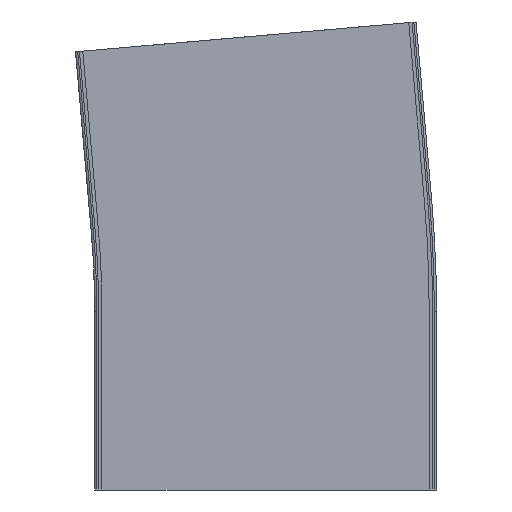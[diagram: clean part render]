
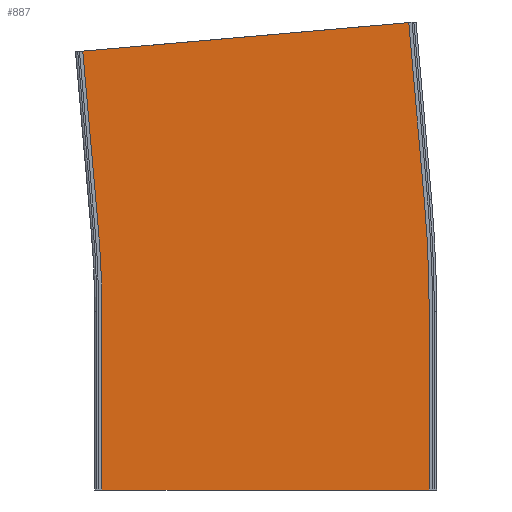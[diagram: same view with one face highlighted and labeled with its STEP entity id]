
A CAD part, left-side view. The second image highlights one B-rep face of the part: STEP entity #887.
In plain terms, the highlighted planar face has unit normal (-1, 0, 0).
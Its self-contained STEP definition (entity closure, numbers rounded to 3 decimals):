
#58 = ORIENTED_EDGE ( 'NONE', *, *, #953, .F. ) ;
#99 = VERTEX_POINT ( 'NONE', #1376 ) ;
#144 = DIRECTION ( 'NONE',  ( 0., -1., 0. ) ) ;
#150 = AXIS2_PLACEMENT_3D ( 'NONE', #1542, #1943, #780 ) ;
#167 = EDGE_CURVE ( 'NONE', #1326, #804, #1760, .T. ) ;
#331 = DIRECTION ( 'NONE',  ( 0., 0., 1. ) ) ;
#352 = VECTOR ( 'NONE', #1712, 1000. ) ;
#360 = CARTESIAN_POINT ( 'NONE',  ( -323.5, -73.4, 80. ) ) ;
#365 = EDGE_CURVE ( 'NONE', #804, #1786, #2067, .T. ) ;
#385 = FACE_OUTER_BOUND ( 'NONE', #2340, .T. ) ;
#463 = CARTESIAN_POINT ( 'NONE',  ( -323.5, 73.4, 80. ) ) ;
#507 = DIRECTION ( 'NONE',  ( 0., 0.087, 0.996 ) ) ;
#543 = CARTESIAN_POINT ( 'NONE',  ( -323.5, -73.4, 0. ) ) ;
#555 = DIRECTION ( 'NONE',  ( 0., 0., -1. ) ) ;
#565 = CIRCLE ( 'NONE', #150, 573.4 ) ;
#631 = CARTESIAN_POINT ( 'NONE',  ( -323.5, 81.996, 196.876 ) ) ;
#761 = DIRECTION ( 'NONE',  ( 0., 0., -1. ) ) ;
#769 = CARTESIAN_POINT ( 'NONE',  ( -323.5, -64.246, 209.671 ) ) ;
#780 = DIRECTION ( 'NONE',  ( 0., 0., 1. ) ) ;
#804 = VERTEX_POINT ( 'NONE', #914 ) ;
#887 = ADVANCED_FACE ( 'NONE', ( #385 ), #2297, .F. ) ;
#901 = EDGE_CURVE ( 'NONE', #906, #1786, #1143, .T. ) ;
#906 = VERTEX_POINT ( 'NONE', #2465 ) ;
#914 = CARTESIAN_POINT ( 'NONE',  ( -323.5, 73.4, 0. ) ) ;
#919 = ORIENTED_EDGE ( 'NONE', *, *, #167, .T. ) ;
#938 = AXIS2_PLACEMENT_3D ( 'NONE', #360, #2101, #555 ) ;
#951 = VERTEX_POINT ( 'NONE', #1900 ) ;
#953 = EDGE_CURVE ( 'NONE', #951, #1881, #2233, .T. ) ;
#958 = LINE ( 'NONE', #769, #1138 ) ;
#959 = EDGE_CURVE ( 'NONE', #1881, #99, #958, .T. ) ;
#963 = DIRECTION ( 'NONE',  ( 0., -0.996, 0.087 ) ) ;
#990 = LINE ( 'NONE', #2039, #2344 ) ;
#1008 = EDGE_CURVE ( 'NONE', #906, #2369, #565, .T. ) ;
#1027 = CARTESIAN_POINT ( 'NONE',  ( -323.5, 73.4, 80. ) ) ;
#1043 = ORIENTED_EDGE ( 'NONE', *, *, #1480, .F. ) ;
#1071 = ORIENTED_EDGE ( 'NONE', *, *, #1008, .T. ) ;
#1103 = VECTOR ( 'NONE', #144, 1000. ) ;
#1117 = CIRCLE ( 'NONE', #2275, 426.6 ) ;
#1138 = VECTOR ( 'NONE', #963, 1000. ) ;
#1143 = LINE ( 'NONE', #2116, #2262 ) ;
#1189 = ORIENTED_EDGE ( 'NONE', *, *, #365, .T. ) ;
#1262 = DIRECTION ( 'NONE',  ( -1., 0., 0. ) ) ;
#1326 = VERTEX_POINT ( 'NONE', #463 ) ;
#1376 = CARTESIAN_POINT ( 'NONE',  ( -323.5, -64.246, 209.671 ) ) ;
#1387 = CARTESIAN_POINT ( 'NONE',  ( -323.5, -71.218, 129.975 ) ) ;
#1480 = EDGE_CURVE ( 'NONE', #1326, #951, #1117, .T. ) ;
#1542 = CARTESIAN_POINT ( 'NONE',  ( -323.5, 500., 80. ) ) ;
#1593 = DIRECTION ( 'NONE',  ( 0., 0., -1. ) ) ;
#1668 = ORIENTED_EDGE ( 'NONE', *, *, #901, .F. ) ;
#1712 = DIRECTION ( 'NONE',  ( 0., 0.087, 0.996 ) ) ;
#1721 = ORIENTED_EDGE ( 'NONE', *, *, #2482, .T. ) ;
#1748 = CARTESIAN_POINT ( 'NONE',  ( -323.5, -73.4, 0. ) ) ;
#1760 = LINE ( 'NONE', #1027, #2007 ) ;
#1786 = VERTEX_POINT ( 'NONE', #1748 ) ;
#1881 = VERTEX_POINT ( 'NONE', #631 ) ;
#1891 = CARTESIAN_POINT ( 'NONE',  ( -323.5, 75.023, 117.181 ) ) ;
#1900 = CARTESIAN_POINT ( 'NONE',  ( -323.5, 75.023, 117.181 ) ) ;
#1943 = DIRECTION ( 'NONE',  ( -1., 0., 0. ) ) ;
#2007 = VECTOR ( 'NONE', #1593, 1000. ) ;
#2039 = CARTESIAN_POINT ( 'NONE',  ( -323.5, -71.218, 129.975 ) ) ;
#2067 = LINE ( 'NONE', #543, #1103 ) ;
#2101 = DIRECTION ( 'NONE',  ( 1., 0., 0. ) ) ;
#2116 = CARTESIAN_POINT ( 'NONE',  ( -323.5, -73.4, 80. ) ) ;
#2233 = LINE ( 'NONE', #1891, #352 ) ;
#2262 = VECTOR ( 'NONE', #761, 1000. ) ;
#2275 = AXIS2_PLACEMENT_3D ( 'NONE', #2449, #1262, #331 ) ;
#2297 = PLANE ( 'NONE',  #938 ) ;
#2340 = EDGE_LOOP ( 'NONE', ( #1189, #1668, #1071, #1721, #2375, #58, #1043, #919 ) ) ;
#2344 = VECTOR ( 'NONE', #507, 1000. ) ;
#2369 = VERTEX_POINT ( 'NONE', #1387 ) ;
#2375 = ORIENTED_EDGE ( 'NONE', *, *, #959, .F. ) ;
#2449 = CARTESIAN_POINT ( 'NONE',  ( -323.5, 500., 80. ) ) ;
#2465 = CARTESIAN_POINT ( 'NONE',  ( -323.5, -73.4, 80. ) ) ;
#2482 = EDGE_CURVE ( 'NONE', #2369, #99, #990, .T. ) ;
